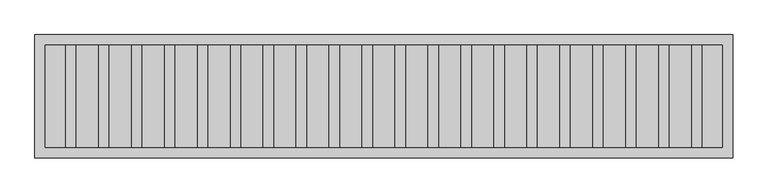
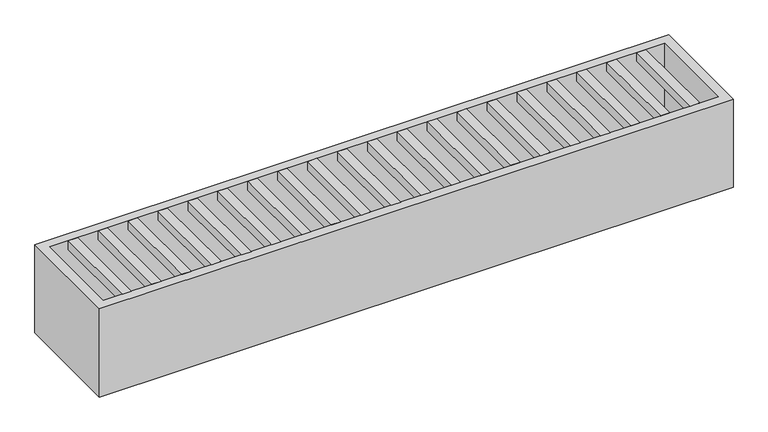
"""IFC4 building model written with IfcOpenShell, lengths in millimetres: flow terminal geometry, ARQ-RE-EX-Ace : L=1.36m."""

from ifc_helpers import new_model, si_unit, frame, origin, place, context, project, spatial, polyline, outline, extrude, source, transform, mapped, element, save


def flow_terminal_1d86f806(model_context):
    return source(origin(), model_context, "Body", "SweptSolid", [
        extrude(outline(polyline([(555.7894737, 100.0), (555.7894737, -100.0), (535.7894737, -100.0), (535.7894737, 100.0), (555.7894737, 100.0)])), frame((0.0, 0.0, -20.0), z_axis=(0.0, 0.0, 1.0), x_axis=(1.0, 0.0, 0.0)), (0.0, 0.0, 1.0), 20.0),
        extrude(outline(polyline([(491.5789474, 100.0), (491.5789474, -100.0), (471.5789474, -100.0), (471.5789474, 100.0), (491.5789474, 100.0)])), frame((0.0, 0.0, -20.0), z_axis=(0.0, 0.0, 1.0), x_axis=(1.0, 0.0, 0.0)), (0.0, 0.0, 1.0), 20.0),
        extrude(outline(polyline([(427.3684211, 100.0), (427.3684211, -100.0), (407.3684211, -100.0), (407.3684211, 100.0), (427.3684211, 100.0)])), frame((0.0, 0.0, -20.0), z_axis=(0.0, 0.0, 1.0), x_axis=(1.0, 0.0, 0.0)), (0.0, 0.0, 1.0), 20.0),
        extrude(outline(polyline([(363.1578947, 100.0), (363.1578947, -100.0), (343.1578947, -100.0), (343.1578947, 100.0), (363.1578947, 100.0)])), frame((0.0, 0.0, -20.0), z_axis=(0.0, 0.0, 1.0), x_axis=(1.0, 0.0, 0.0)), (0.0, 0.0, 1.0), 20.0),
        extrude(outline(polyline([(298.9473684, 100.0), (298.9473684, -100.0), (278.9473684, -100.0), (278.9473684, 100.0), (298.9473684, 100.0)])), frame((0.0, 0.0, -20.0), z_axis=(0.0, 0.0, 1.0), x_axis=(1.0, 0.0, 0.0)), (0.0, 0.0, 1.0), 20.0),
        extrude(outline(polyline([(234.7368421, 100.0), (234.7368421, -100.0), (214.7368421, -100.0), (214.7368421, 100.0), (234.7368421, 100.0)])), frame((0.0, 0.0, -20.0), z_axis=(0.0, 0.0, 1.0), x_axis=(1.0, 0.0, 0.0)), (0.0, 0.0, 1.0), 20.0),
        extrude(outline(polyline([(170.5263158, 100.0), (170.5263158, -100.0), (150.5263158, -100.0), (150.5263158, 100.0), (170.5263158, 100.0)])), frame((0.0, 0.0, -20.0), z_axis=(0.0, 0.0, 1.0), x_axis=(1.0, 0.0, 0.0)), (0.0, 0.0, 1.0), 20.0),
        extrude(outline(polyline([(106.3157895, 100.0), (106.3157895, -100.0), (86.3157895, -100.0), (86.3157895, 100.0), (106.3157895, 100.0)])), frame((0.0, 0.0, -20.0), z_axis=(0.0, 0.0, 1.0), x_axis=(1.0, 0.0, 0.0)), (0.0, 0.0, 1.0), 20.0),
        extrude(outline(polyline([(42.1052632, 100.0), (42.1052632, -100.0), (22.1052632, -100.0), (22.1052632, 100.0), (42.1052632, 100.0)])), frame((0.0, 0.0, -20.0), z_axis=(0.0, 0.0, 1.0), x_axis=(1.0, 0.0, 0.0)), (0.0, 0.0, 1.0), 20.0),
        extrude(outline(polyline([(-22.1052632, 100.0), (-22.1052632, -100.0), (-42.1052632, -100.0), (-42.1052632, 100.0), (-22.1052632, 100.0)])), frame((0.0, 0.0, -20.0), z_axis=(0.0, 0.0, 1.0), x_axis=(1.0, 0.0, 0.0)), (0.0, 0.0, 1.0), 20.0),
        extrude(outline(polyline([(-86.3157895, 100.0), (-86.3157895, -100.0), (-106.3157895, -100.0), (-106.3157895, 100.0), (-86.3157895, 100.0)])), frame((0.0, 0.0, -20.0), z_axis=(0.0, 0.0, 1.0), x_axis=(1.0, 0.0, 0.0)), (0.0, 0.0, 1.0), 20.0),
        extrude(outline(polyline([(-150.5263158, 100.0), (-150.5263158, -100.0), (-170.5263158, -100.0), (-170.5263158, 100.0), (-150.5263158, 100.0)])), frame((0.0, 0.0, -20.0), z_axis=(0.0, 0.0, 1.0), x_axis=(1.0, 0.0, 0.0)), (0.0, 0.0, 1.0), 20.0),
        extrude(outline(polyline([(-214.7368421, 100.0), (-214.7368421, -100.0), (-234.7368421, -100.0), (-234.7368421, 100.0), (-214.7368421, 100.0)])), frame((0.0, 0.0, -20.0), z_axis=(0.0, 0.0, 1.0), x_axis=(1.0, 0.0, 0.0)), (0.0, 0.0, 1.0), 20.0),
        extrude(outline(polyline([(-278.9473684, 100.0), (-278.9473684, -100.0), (-298.9473684, -100.0), (-298.9473684, 100.0), (-278.9473684, 100.0)])), frame((0.0, 0.0, -20.0), z_axis=(0.0, 0.0, 1.0), x_axis=(1.0, 0.0, 0.0)), (0.0, 0.0, 1.0), 20.0),
        extrude(outline(polyline([(-343.1578947, 100.0), (-343.1578947, -100.0), (-363.1578947, -100.0), (-363.1578947, 100.0), (-343.1578947, 100.0)])), frame((0.0, 0.0, -20.0), z_axis=(0.0, 0.0, 1.0), x_axis=(1.0, 0.0, 0.0)), (0.0, 0.0, 1.0), 20.0),
        extrude(outline(polyline([(-407.3684211, 100.0), (-407.3684211, -100.0), (-427.3684211, -100.0), (-427.3684211, 100.0), (-407.3684211, 100.0)])), frame((0.0, 0.0, -20.0), z_axis=(0.0, 0.0, 1.0), x_axis=(1.0, 0.0, 0.0)), (0.0, 0.0, 1.0), 20.0),
        extrude(outline(polyline([(-471.5789474, 100.0), (-471.5789474, -100.0), (-491.5789474, -100.0), (-491.5789474, 100.0), (-471.5789474, 100.0)])), frame((0.0, 0.0, -20.0), z_axis=(0.0, 0.0, 1.0), x_axis=(1.0, 0.0, 0.0)), (0.0, 0.0, 1.0), 20.0),
        extrude(outline(polyline([(-535.7894737, 100.0), (-535.7894737, -100.0), (-555.7894737, -100.0), (-555.7894737, 100.0), (-535.7894737, 100.0)])), frame((0.0, 0.0, -20.0), z_axis=(0.0, 0.0, 1.0), x_axis=(1.0, 0.0, 0.0)), (0.0, 0.0, 1.0), 20.0),
        extrude(outline(polyline([(620.0, 100.0), (620.0, -100.0), (600.0, -100.0), (600.0, 100.0), (620.0, 100.0)])), frame((0.0, 0.0, -20.0), z_axis=(0.0, 0.0, 1.0), x_axis=(1.0, 0.0, 0.0)), (0.0, 0.0, 1.0), 20.0),
        extrude(outline(polyline([(-600.0, 100.0), (-600.0, -100.0), (-620.0, -100.0), (-620.0, 100.0), (-600.0, 100.0)])), frame((0.0, 0.0, -20.0), z_axis=(0.0, 0.0, 1.0), x_axis=(1.0, 0.0, 0.0)), (0.0, 0.0, 1.0), 20.0),
        extrude(outline(polyline([(660.0, 100.0), (660.0, -100.0), (-660.0, -100.0), (-660.0, 100.0), (660.0, 100.0)])), frame((0.0, 0.0, -200.0), z_axis=(0.0, 0.0, 1.0), x_axis=(1.0, 0.0, 0.0)), (0.0, 0.0, 1.0), 20.0),
        extrude(outline(polyline([(680.0, 120.0), (680.0, -120.0), (-680.0, -120.0), (-680.0, 120.0), (680.0, 120.0)]), holes=[polyline([(660.0, 100.0), (-660.0, 100.0), (-660.0, -100.0), (660.0, -100.0), (660.0, 100.0)])]), frame((0.0, 0.0, -200.0), z_axis=(0.0, 0.0, 1.0), x_axis=(1.0, 0.0, 0.0)), (0.0, 0.0, 1.0), 200.0),
    ])


if __name__ == "__main__":
    model = new_model("IFC4")
    model_context = context("Model", 3, world=origin())
    ifc_project = project(units=[si_unit("LENGTHUNIT", "METRE", prefix="MILLI")], contexts=[model_context])
    site = spatial("IfcSite", under=ifc_project)
    building = spatial("IfcBuilding", under=site)
    placement = place(None, origin())
    flow_terminal_shape = flow_terminal_1d86f806(model_context)
    element("IfcFlowTerminal", 1, ObjectType="ARQ-RE-EX-Ace : L=1.36m", at=placement, inside=building, context=model_context, shape_type="MappedRepresentation", body=[
        mapped(flow_terminal_shape, transform((0.0, 0.0, 0.0), x_axis=(1.0, 0.0, 0.0), y_axis=(0.0, 1.0, 0.0), z_axis=(0.0, 0.0, 1.0))),
    ])
    save(model, "model.ifc")
